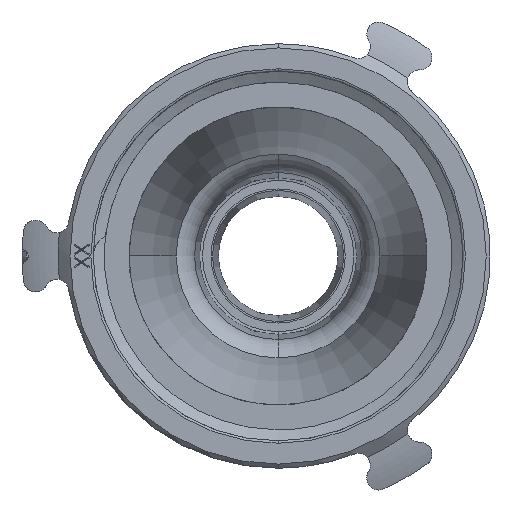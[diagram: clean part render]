
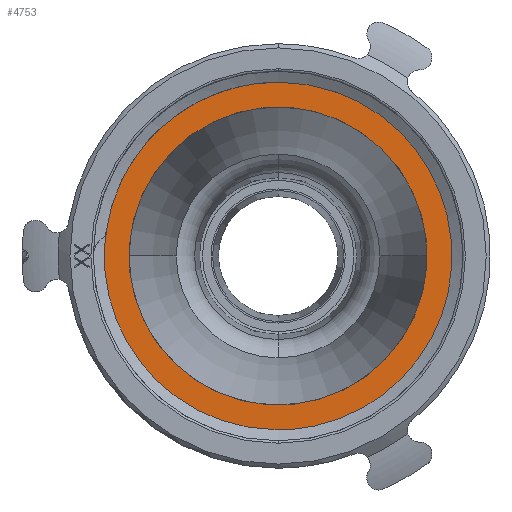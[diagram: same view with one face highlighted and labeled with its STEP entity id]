
A CAD part, left-side view. The second image highlights one B-rep face of the part: STEP entity #4753.
In plain terms, the highlighted planar face has unit normal (-1, 0, 0).
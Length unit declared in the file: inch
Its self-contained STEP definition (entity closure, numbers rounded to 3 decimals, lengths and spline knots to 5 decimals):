
#166 = AXIS2_PLACEMENT_3D ( 'NONE', #2352, #2353, #2354 ) ;
#168 = AXIS2_PLACEMENT_3D ( 'NONE', #2358, #2359, #2360 ) ;
#171 = AXIS2_PLACEMENT_3D ( 'NONE', #2371, #2372, #2373 ) ;
#176 = AXIS2_PLACEMENT_3D ( 'NONE', #2386, #2387, #2388 ) ;
#1037 = FACE_OUTER_BOUND ( 'NONE', #5701, .T. ) ;
#1039 = FACE_BOUND ( 'NONE', #5706, .T. ) ;
#2160 = DIRECTION ( 'NONE',  ( 0., 0.912, 0.41 ) ) ;
#2161 = DIRECTION ( 'NONE',  ( 1., 0., 0. ) ) ;
#2163 = PLANE ( 'NONE',  #5615 ) ;
#2166 = CARTESIAN_POINT ( 'NONE',  ( 0.7475, -0.5122, 1.14024 ) ) ;
#2352 = CARTESIAN_POINT ( 'NONE',  ( 0.7475, 0., 0. ) ) ;
#2353 = DIRECTION ( 'NONE',  ( 1., 0., 0. ) ) ;
#2354 = DIRECTION ( 'NONE',  ( 0., 0.912, 0.41 ) ) ;
#2358 = CARTESIAN_POINT ( 'NONE',  ( 0.7475, 0., 0. ) ) ;
#2359 = DIRECTION ( 'NONE',  ( 1., 0., 0. ) ) ;
#2360 = DIRECTION ( 'NONE',  ( 0., 0.912, 0.41 ) ) ;
#2371 = CARTESIAN_POINT ( 'NONE',  ( 0.7475, 0., 0. ) ) ;
#2372 = DIRECTION ( 'NONE',  ( 1., 0., 0. ) ) ;
#2373 = DIRECTION ( 'NONE',  ( 0., 0.912, 0.41 ) ) ;
#2386 = CARTESIAN_POINT ( 'NONE',  ( 0.7475, 0., 0. ) ) ;
#2387 = DIRECTION ( 'NONE',  ( 1., 0., 0. ) ) ;
#2388 = DIRECTION ( 'NONE',  ( 0., 0.912, 0.41 ) ) ;
#4008 = CARTESIAN_POINT ( 'NONE',  ( 0.7475, -1.14024, -0.5122 ) ) ;
#4009 = CARTESIAN_POINT ( 'NONE',  ( 0.7475, 1.14024, 0.5122 ) ) ;
#4019 = CARTESIAN_POINT ( 'NONE',  ( 0.7475, -1.45951, -0.65561 ) ) ;
#4022 = CARTESIAN_POINT ( 'NONE',  ( 0.7475, 1.45951, 0.65561 ) ) ;
#4753 = ADVANCED_FACE ( 'NONE', ( #1037, #1039 ), #2163, .F. ) ;
#5615 = AXIS2_PLACEMENT_3D ( 'NONE', #2166, #2161, #2160 ) ;
#5701 = EDGE_LOOP ( 'NONE', ( #8028, #8027 ) ) ;
#5706 = EDGE_LOOP ( 'NONE', ( #8026, #8025 ) ) ;
#6259 = CIRCLE ( 'NONE', #166, 1.6 ) ;
#6264 = CIRCLE ( 'NONE', #168, 1.6 ) ;
#6268 = CIRCLE ( 'NONE', #171, 1.25 ) ;
#6276 = CIRCLE ( 'NONE', #176, 1.25 ) ;
#6617 = EDGE_CURVE ( 'NONE', #7388, #7391, #6259, .T. ) ;
#6619 = EDGE_CURVE ( 'NONE', #7391, #7388, #6264, .T. ) ;
#6623 = EDGE_CURVE ( 'NONE', #7378, #7377, #6268, .T. ) ;
#6628 = EDGE_CURVE ( 'NONE', #7377, #7378, #6276, .T. ) ;
#7377 = VERTEX_POINT ( 'NONE', #4008 ) ;
#7378 = VERTEX_POINT ( 'NONE', #4009 ) ;
#7388 = VERTEX_POINT ( 'NONE', #4019 ) ;
#7391 = VERTEX_POINT ( 'NONE', #4022 ) ;
#8025 = ORIENTED_EDGE ( 'NONE', *, *, #6628, .T. ) ;
#8026 = ORIENTED_EDGE ( 'NONE', *, *, #6623, .T. ) ;
#8027 = ORIENTED_EDGE ( 'NONE', *, *, #6617, .F. ) ;
#8028 = ORIENTED_EDGE ( 'NONE', *, *, #6619, .F. ) ;
